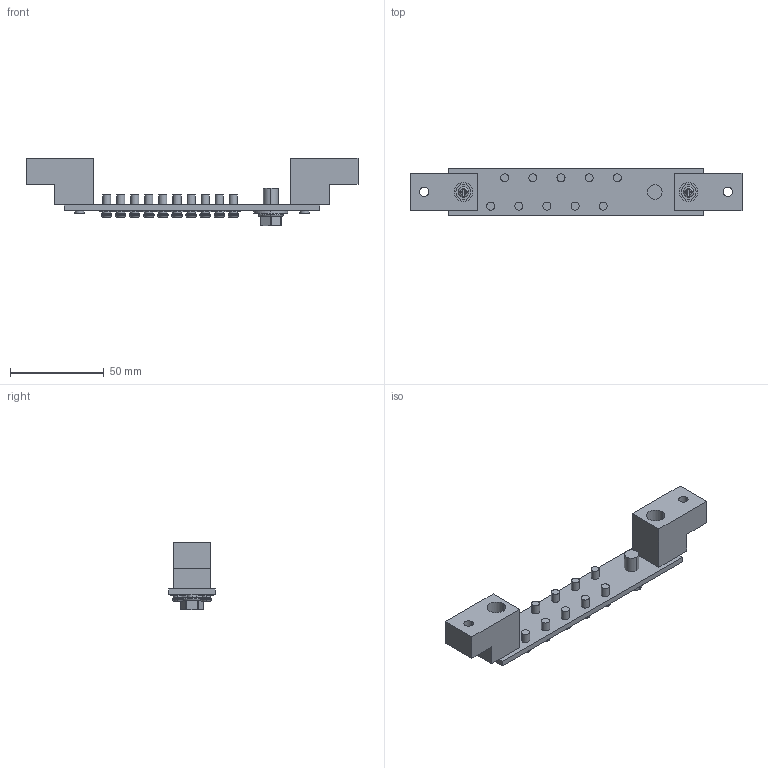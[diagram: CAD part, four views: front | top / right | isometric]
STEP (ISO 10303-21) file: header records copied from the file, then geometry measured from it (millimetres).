
FILE_DESCRIPTION(('Creo Elements/Direct Modeling STEP Export'),'2;1');
FILE_NAME('11N.stp','2025-07-23T16:28:34',(''),(''),'PTC Creo Elements/Direct Modeling STEP processor for AP214 (Solid Model)','PTC Creo Elements/Direct Modeling 19.0 09-May-2014 (C) Parametric Technology GmbH','');
FILE_SCHEMA(('AUTOMOTIVE_DESIGN { 1 0 10303 214 1 1 1 1 }'));
Length unit declared in the file: millimetre
Products named in the file (19): QUILT_3-34740.PRT; QUILT_2-34360.PRT; QUILT_1-14960.PRT; USER_LIBRARY-SAN_ZU_HE_LUO-2060.PRT; M5_1_1_1_1_1_1_1_1_2.ASM; QUILT_3-85900.PRT; QUILT_2-85520.PRT; QUILT_1-66120.PRT; USER_LIBRARY-SAN_ZU_HE_LU-53220.PRT; M5_1_1_1_1_1_1_1_1_1_1_1_1_1_1.ASM; SCREW_1_2_PRT.PRT; SCREW_1_1_PRT.PRT; SCREW_1_ASM.ASM; SCREW_0723_STP.ASM; A1.ASM; HOLD_1.PRT; CU.PRT; 17N_1.ASM; 11N
Assembly tree (29 placements, depth 5):
  11N
    17N_1.ASM
      M5_1_1_1_1_1_1_1_1_1_1_1_1_1_1.ASM  x2
        USER_LIBRARY-SAN_ZU_HE_LU-53220.PRT
        QUILT_1-66120.PRT
        QUILT_2-85520.PRT
        QUILT_3-85900.PRT
      CU.PRT
      HOLD_1.PRT  x2
      M5_1_1_1_1_1_1_1_1_2.ASM  x5
        USER_LIBRARY-SAN_ZU_HE_LUO-2060.PRT
        QUILT_1-14960.PRT
        QUILT_2-34360.PRT
        QUILT_3-34740.PRT
      A1.ASM
        M5_1_1_1_1_1_1_1_1_2.ASM  x5
          USER_LIBRARY-SAN_ZU_HE_LUO-2060.PRT
          QUILT_1-14960.PRT
          QUILT_2-34360.PRT
          QUILT_3-34740.PRT
      SCREW_0723_STP.ASM
        SCREW_1_ASM.ASM
          SCREW_1_1_PRT.PRT
          SCREW_1_2_PRT.PRT
Bounding box: 177 x 25 x 36.2 mm (x, y, z)
Volume: 37937.8 mm3; surface area: 23215.3 mm2
Topology: 29 solids, 29 shells, 584 faces, 1468 edges, 962 vertices
Faces by surface type: plane 328, cylinder 204, torus 52
Entity records: 6462 total; most frequent: CARTESIAN_POINT 1037, DIRECTION 894, ORIENTED_EDGE 892, EDGE_CURVE 446, AXIS2_PLACEMENT_3D 329, VERTEX_POINT 294, VECTOR 236, LINE 236
